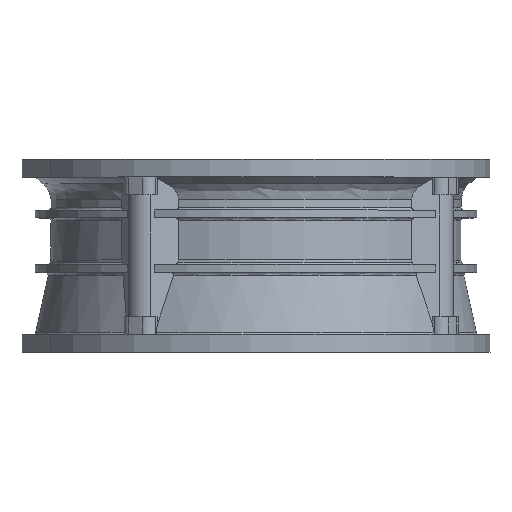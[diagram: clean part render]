
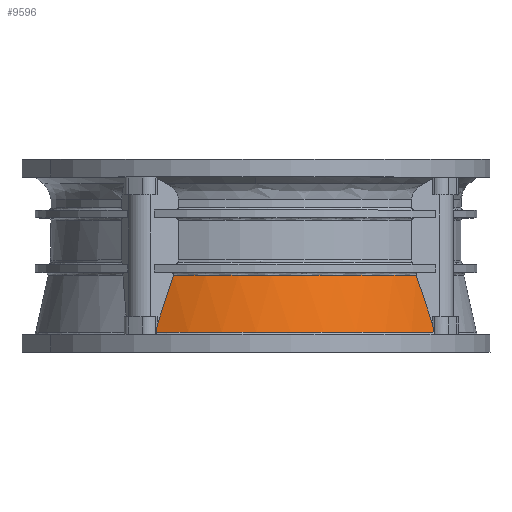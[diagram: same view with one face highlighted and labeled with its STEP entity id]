
A CAD part, top view. The second image highlights one B-rep face of the part: STEP entity #9596.
In plain terms, the highlighted conical face has half-angle 11.889 degrees and reference radius 43.416 mm.
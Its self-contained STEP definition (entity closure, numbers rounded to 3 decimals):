
#113 = DIRECTION ( 'NONE',  ( -1., 0., 0. ) ) ;
#1121 = AXIS2_PLACEMENT_3D ( 'NONE', #32740, #16446, #113 ) ;
#1720 = CARTESIAN_POINT ( 'NONE',  ( -19.632, -34.103, 38.724 ) ) ;
#2238 = CARTESIAN_POINT ( 'NONE',  ( 31.586, -22.853, 26.215 ) ) ;
#2357 = DIRECTION ( 'NONE',  ( 0., 0., -1. ) ) ;
#2568 = CARTESIAN_POINT ( 'NONE',  ( -18.377, -29.234, 38.211 ) ) ;
#2727 = CARTESIAN_POINT ( 'NONE',  ( 31.586, -22.853, 26.215 ) ) ;
#3090 = ORIENTED_EDGE ( 'NONE', *, *, #11250, .T. ) ;
#3678 = VERTEX_POINT ( 'NONE', #19690 ) ;
#4083 = B_SPLINE_CURVE_WITH_KNOTS ( 'NONE', 3,
 ( #19073, #16084, #29871, #2727 ),
 .UNSPECIFIED., .F., .F.,
 ( 4, 4 ),
 ( 0., 1. ),
 .UNSPECIFIED. ) ;
#4714 = EDGE_CURVE ( 'NONE', #8084, #6578, #4083, .T. ) ;
#4837 = VERTEX_POINT ( 'NONE', #6077 ) ;
#5092 = EDGE_CURVE ( 'NONE', #3678, #4837, #24599, .T. ) ;
#5763 = AXIS2_PLACEMENT_3D ( 'NONE', #18575, #15939, #2357 ) ;
#6077 = CARTESIAN_POINT ( 'NONE',  ( -19.473, -32.701, 38.474 ) ) ;
#6578 = VERTEX_POINT ( 'NONE', #2238 ) ;
#8084 = VERTEX_POINT ( 'NONE', #16393 ) ;
#8311 = ORIENTED_EDGE ( 'NONE', *, *, #16152, .T. ) ;
#8676 = CARTESIAN_POINT ( 'NONE',  ( 34.987, -33.635, 25.541 ) ) ;
#9596 = ADVANCED_FACE ( 'NONE', ( #13149 ), #12295, .T. ) ;
#10565 = CIRCLE ( 'NONE', #32916, 41.048 ) ;
#11250 = EDGE_CURVE ( 'NONE', #6578, #3678, #10565, .T. ) ;
#11335 = CARTESIAN_POINT ( 'NONE',  ( 0., -22.853, 0. ) ) ;
#11700 = ORIENTED_EDGE ( 'NONE', *, *, #30793, .F. ) ;
#12295 = CONICAL_SURFACE ( 'NONE', #5763, 43.416, 0.207 ) ;
#13049 = VERTEX_POINT ( 'NONE', #32803 ) ;
#13149 = FACE_OUTER_BOUND ( 'NONE', #26550, .T. ) ;
#13404 = CARTESIAN_POINT ( 'NONE',  ( -17.301, -25.951, 37.952 ) ) ;
#13999 = CARTESIAN_POINT ( 'NONE',  ( 34.902, -33.167, 25.49 ) ) ;
#14060 = DIRECTION ( 'NONE',  ( -1., 0., 0. ) ) ;
#14585 = B_SPLINE_CURVE_WITH_KNOTS ( 'NONE', 3,
 ( #15302, #31608, #18043, #1720 ),
 .UNSPECIFIED., .F., .F.,
 ( 4, 4 ),
 ( 0., 1. ),
 .UNSPECIFIED. ) ;
#15302 = CARTESIAN_POINT ( 'NONE',  ( -19.473, -32.701, 38.474 ) ) ;
#15822 = ORIENTED_EDGE ( 'NONE', *, *, #4714, .T. ) ;
#15939 = DIRECTION ( 'NONE',  ( 0., -1., 0. ) ) ;
#16084 = CARTESIAN_POINT ( 'NONE',  ( 33.721, -29.233, 25.703 ) ) ;
#16152 = EDGE_CURVE ( 'NONE', #4837, #13049, #14585, .T. ) ;
#16393 = CARTESIAN_POINT ( 'NONE',  ( 34.817, -32.7, 25.44 ) ) ;
#16446 = DIRECTION ( 'NONE',  ( 0., 1., 0. ) ) ;
#18043 = CARTESIAN_POINT ( 'NONE',  ( -19.579, -33.636, 38.641 ) ) ;
#18575 = CARTESIAN_POINT ( 'NONE',  ( 0., -34.103, 0. ) ) ;
#19073 = CARTESIAN_POINT ( 'NONE',  ( 34.817, -32.7, 25.44 ) ) ;
#19690 = CARTESIAN_POINT ( 'NONE',  ( -16.242, -22.853, 37.698 ) ) ;
#21587 = CARTESIAN_POINT ( 'NONE',  ( 35.072, -34.103, 25.592 ) ) ;
#21640 = CARTESIAN_POINT ( 'NONE',  ( -19.473, -32.701, 38.474 ) ) ;
#22215 = CARTESIAN_POINT ( 'NONE',  ( 34.817, -32.7, 25.44 ) ) ;
#23129 = VERTEX_POINT ( 'NONE', #21587 ) ;
#23226 = CIRCLE ( 'NONE', #1121, 43.416 ) ;
#24599 = B_SPLINE_CURVE_WITH_KNOTS ( 'NONE', 3,
 ( #35183, #13404, #2568, #21640 ),
 .UNSPECIFIED., .F., .F.,
 ( 4, 4 ),
 ( 0., 1. ),
 .UNSPECIFIED. ) ;
#26215 = EDGE_CURVE ( 'NONE', #13049, #23129, #23226, .T. ) ;
#26550 = EDGE_LOOP ( 'NONE', ( #15822, #3090, #35039, #8311, #28809, #11700 ) ) ;
#27694 = CARTESIAN_POINT ( 'NONE',  ( 35.072, -34.103, 25.592 ) ) ;
#28809 = ORIENTED_EDGE ( 'NONE', *, *, #26215, .T. ) ;
#29871 = CARTESIAN_POINT ( 'NONE',  ( 32.645, -25.951, 25.961 ) ) ;
#30361 = DIRECTION ( 'NONE',  ( 0., -1., 0. ) ) ;
#30662 = B_SPLINE_CURVE_WITH_KNOTS ( 'NONE', 3,
 ( #22215, #13999, #8676, #27694 ),
 .UNSPECIFIED., .F., .F.,
 ( 4, 4 ),
 ( 0., 1. ),
 .UNSPECIFIED. ) ;
#30793 = EDGE_CURVE ( 'NONE', #8084, #23129, #30662, .T. ) ;
#31608 = CARTESIAN_POINT ( 'NONE',  ( -19.526, -33.168, 38.557 ) ) ;
#32740 = CARTESIAN_POINT ( 'NONE',  ( 0., -34.103, 0. ) ) ;
#32803 = CARTESIAN_POINT ( 'NONE',  ( -19.632, -34.103, 38.724 ) ) ;
#32916 = AXIS2_PLACEMENT_3D ( 'NONE', #11335, #30361, #14060 ) ;
#35039 = ORIENTED_EDGE ( 'NONE', *, *, #5092, .T. ) ;
#35183 = CARTESIAN_POINT ( 'NONE',  ( -16.242, -22.853, 37.698 ) ) ;
